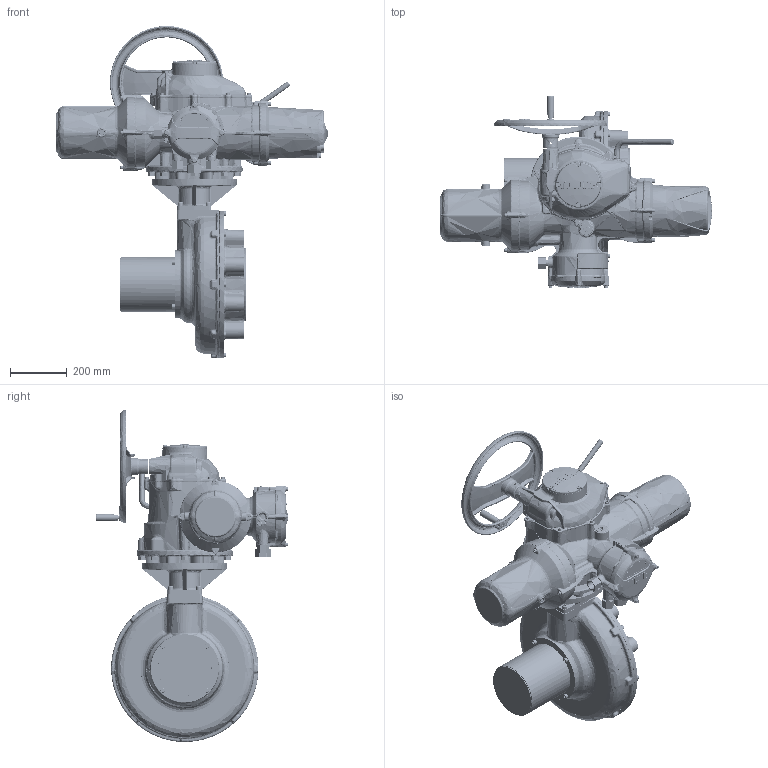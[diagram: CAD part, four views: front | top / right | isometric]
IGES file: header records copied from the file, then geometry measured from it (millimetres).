
Start section: C
Global section: file name: II4SHWIB12STD-1.igs; native system: By Siemens PLM Incorporated; preprocessor: XPlus GENERIC/IGES 18.0.17; author: Author; organization: Title; date: 20160624.100350; units: millimetre
Bounding box: 958.8 x 680.05 x 1172 mm (x, y, z)
Surface area: 3017831.6 mm2 (no closed solid volume)
Topology: 0 solids, 0 shells, 9373 faces, 51236 edges, 50773 vertices
Faces by surface type: bspline 9373
